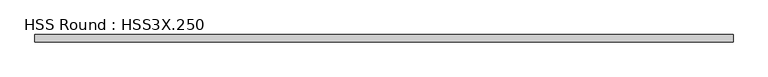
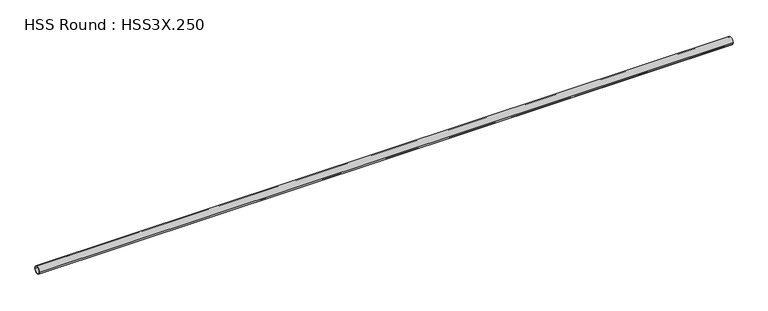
"""IFC4 building model written with IfcOpenShell, lengths in millimetres: member geometry, HSS Round : HSS3X.250."""

from ifc_helpers import new_model, si_unit, point, frame, origin, origin_2d, place, context, project, spatial, circle_curve, trimmed, segment, composite_curve, outline, extrude, source, transform, mapped, element, save


def hss_round_hss3x_250_a504d2e9(model_context):
    return source(origin(), model_context, "Body", "SweptSolid", [
        extrude(outline(composite_curve([segment(trimmed(circle_curve(origin_2d(), 38.1), [point((-38.1, 0.0))], [point((38.1, 0.0))], False, "CARTESIAN"), True, "CONTINUOUS"), segment(trimmed(circle_curve(origin_2d(), 38.1), [point((38.1, 0.0))], [point((-38.1, 0.0))], False, "CARTESIAN"), True, "CONTINUOUS")], self_intersect=False), holes=[composite_curve([segment(trimmed(circle_curve(origin_2d(), 31.75), [point((31.75, 0.0))], [point((-31.75, 0.0))], True, "CARTESIAN"), True, "CONTINUOUS"), segment(trimmed(circle_curve(origin_2d(), 31.75), [point((-31.75, 0.0))], [point((31.75, 0.0))], True, "CARTESIAN"), True, "CONTINUOUS")], self_intersect=False)]), frame((-3579.8227274, 0.0, 0.0), z_axis=(1.0, 0.0, 0.0), x_axis=(0.0, 1.0, 0.0)), (0.0, 0.0, 1.0), 7033.8042019),
    ])


if __name__ == "__main__":
    model = new_model("IFC4")
    model_context = context("Model", 3, world=origin())
    ifc_project = project(units=[si_unit("LENGTHUNIT", "METRE", prefix="MILLI")], contexts=[model_context])
    site = spatial("IfcSite", under=ifc_project)
    building = spatial("IfcBuilding", under=site)
    placement = place(None, origin())
    hss_round_hss3x_250_shape = hss_round_hss3x_250_a504d2e9(model_context)
    element("IfcMember", 1, ObjectType="HSS Round : HSS3X.250", at=placement, inside=building, context=model_context, shape_type="MappedRepresentation", body=[
        mapped(hss_round_hss3x_250_shape, transform((0.0, 0.0, 0.0), x_axis=(1.0, 0.0, 0.0), y_axis=(0.0, 1.0, 0.0), z_axis=(0.0, 0.0, 1.0))),
    ])
    save(model, "model.ifc")
